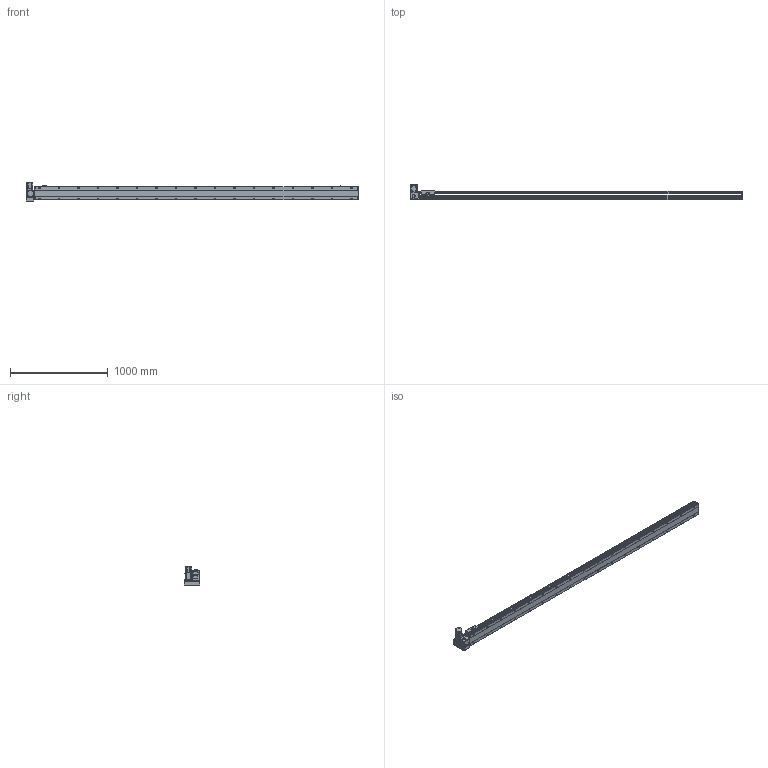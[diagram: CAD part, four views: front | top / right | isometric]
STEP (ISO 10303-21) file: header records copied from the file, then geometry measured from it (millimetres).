
FILE_DESCRIPTION(/* description */ ('STEP AP214'),/* implementation_level */ '2;1');
FILE_NAME(/* name */ 'PBS140S-P40-S3050-LU-T40-C1-N(0)',/* time_stamp */ '2022-06-09T02:37:40+02:00',/* author */ ('License CC BY-ND 4.0'),/* organization */ ('CADENAS'),/* preprocessor_version */ 'ST-DEVELOPER v18.102',/* originating_system */ 'PARTsolutions',/* authorisation */ ' ');
FILE_SCHEMA (('AUTOMOTIVE_DESIGN {1 0 10303 214 3 1 1}'));
Length unit declared in the file: millimetre
Products named in the file (7): PBS140S-P40-S3050-LU-T40-C1-N(0); PBS140S_sensor; PBS140S_plant; PBS140S_sliser; T40-p1; PBS140ST-LU_motors; PBS140S-S3050()_body
Assembly tree (8 placements, depth 2):
  PBS140S-P40-S3050-LU-T40-C1-N(0)
    PBS140S_sensor  x3
    PBS140S_plant
    PBS140S_sliser
    T40-p1
    PBS140ST-LU_motors
    PBS140S-S3050()_body
Bounding box: 3404 x 162.5 x 189.7 mm (x, y, z)
Volume: 16375918.2 mm3; surface area: 2746134.8 mm2
Topology: 8 solids, 8 shells, 1243 faces, 3271 edges, 2139 vertices
Faces by surface type: plane 756, cylinder 417, cone 60, sphere 8, torus 2
Full cylindrical faces by diameter (mm): 3.242 x4, 4 x2, 4.134 x4, 4.4 x8, 4.5 x2, 4.8 x4, 4.917 x42, 5.5 x7, 6 x2, 7 x36, 7.5 x8, 8 x12, 8.5 x4, 10.5 x34, 14 x1, 30 x2, 50 x2
Entity records: 35618 total; most frequent: CARTESIAN_POINT 6824, DIRECTION 5978, ORIENTED_EDGE 5602, EDGE_CURVE 2801, AXIS2_PLACEMENT_3D 2129, VERTEX_POINT 1969, LINE 1720, VECTOR 1720
